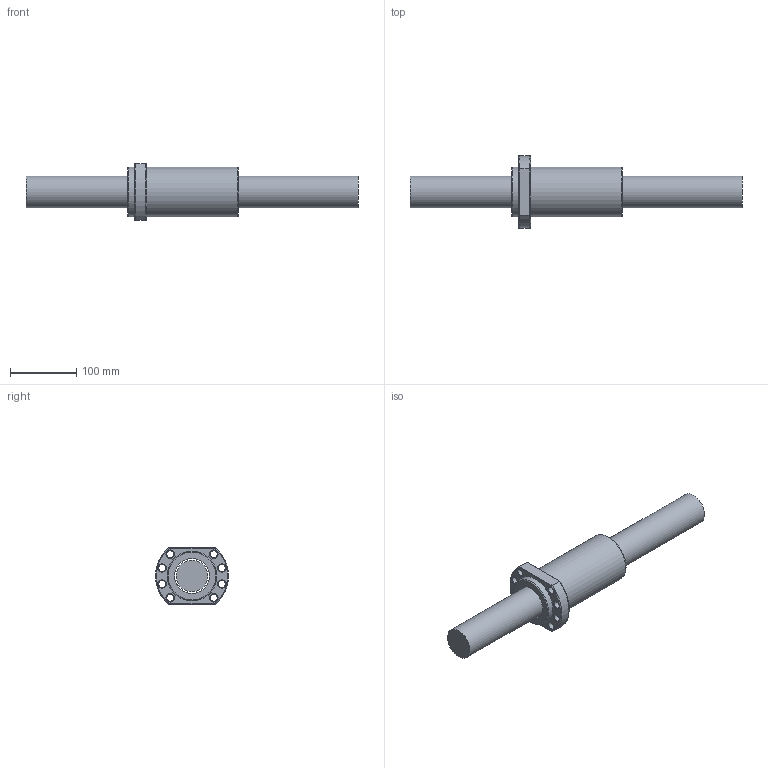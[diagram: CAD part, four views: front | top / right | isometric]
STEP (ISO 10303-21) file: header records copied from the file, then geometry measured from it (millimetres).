
FILE_DESCRIPTION (( 'STEP AP203' ), '1' );
FILE_NAME ('SFA5050-2.8.step', '2024-05-07T07:26:31', ( '' ), ( '' ), 'SwSTEP 2.0', 'SolidWorks 2022', '' );
FILE_SCHEMA (( 'CONFIG_CONTROL_DESIGN' ));
Length unit declared in the file: millimetre
Products named in the file (1): SFA5050-2.8
Bounding box: 500 x 109.65 x 85 mm (x, y, z)
Volume: 1338838.9 mm3; surface area: 162910 mm2
Topology: 2 solids, 2 shells, 63 faces, 152 edges, 95 vertices
Faces by surface type: cylinder 22, cone 17, plane 13, torus 6, bspline 5
Full cylindrical faces by diameter (mm): 4 x1, 7 x6, 11 x8, 48 x1, 52.3 x1, 75 x2
Entity records: 3409 total; most frequent: CARTESIAN_POINT 2196, DIRECTION 226, ORIENTED_EDGE 188, EDGE_LOOP 112, AXIS2_PLACEMENT_3D 105, EDGE_CURVE 94, VERTEX_POINT 78, FACE_OUTER_BOUND 73
